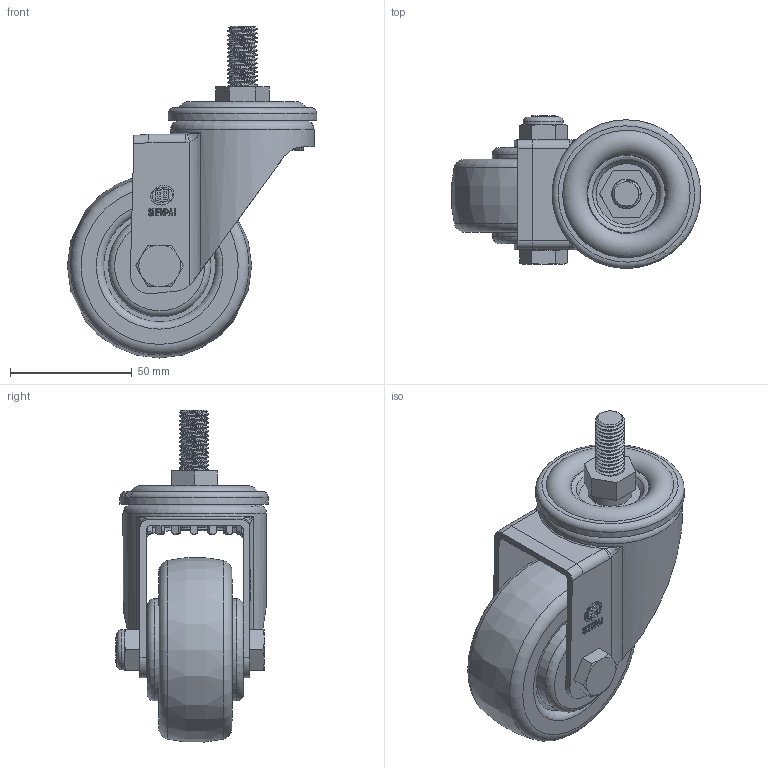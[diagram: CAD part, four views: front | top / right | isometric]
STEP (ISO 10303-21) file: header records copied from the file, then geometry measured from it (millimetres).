
FILE_DESCRIPTION(/* description */ (''),/* implementation_level */ '2;1');
FILE_NAME(/* name */ '20A04_3_F.stp',/* time_stamp */ '2022-09-03T09:52:42+08:00',/* author */ (''),/* organization */ (''),/* preprocessor_version */ 'ST-DEVELOPER v14',/* originating_system */ 'SIEMENS PLM Software NX 8.0',/* authorisation */ '');
FILE_SCHEMA (('AUTOMOTIVE_DESIGN { 1 0 10303 214 3 1 1 1 }'));
Length unit declared in the file: millimetre
Products named in the file (1): 20A04_3_F
Bounding box: 102.42 x 62.77 x 136.35 mm (x, y, z)
Volume: 178123.1 mm3; surface area: 72796.1 mm2
Topology: 1 solids, 2 shells, 699 faces, 2077 edges, 1372 vertices
Faces by surface type: plane 314, cylinder 157, cone 74, sphere 72, torus 68, bspline 14
Full cylindrical faces by diameter (mm): 10 x3, 10.3 x2, 11.2 x2, 12 x1, 12.2 x1, 12.496 x1, 13.2 x4, 16 x1, 16.5 x1, 17 x1, 18 x1, 20.8 x4, 23.2 x2, 24 x1, 30.122 x1, 33 x2, 41 x2, 42 x2, 45.996 x1, 46 x2, 54 x1, 56 x1, 59 x1, 61 x1
Entity records: 31390 total; most frequent: CARTESIAN_POINT 15148, ORIENTED_EDGE 3572, DIRECTION 2936, EDGE_CURVE 1786, VERTEX_POINT 1232, AXIS2_PLACEMENT_3D 1191, EDGE_LOOP 890, B_SPLINE_CURVE_WITH_KNOTS 720
